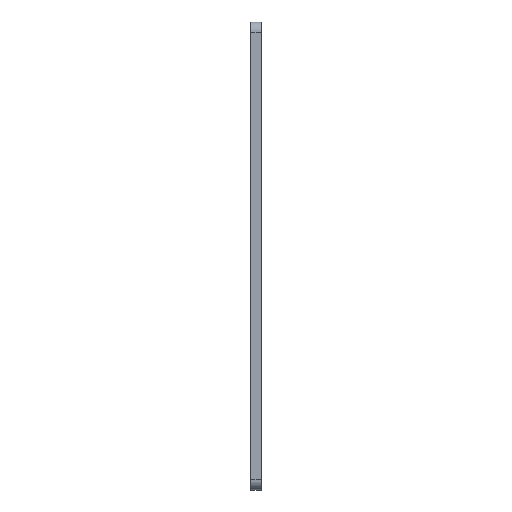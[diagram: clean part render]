
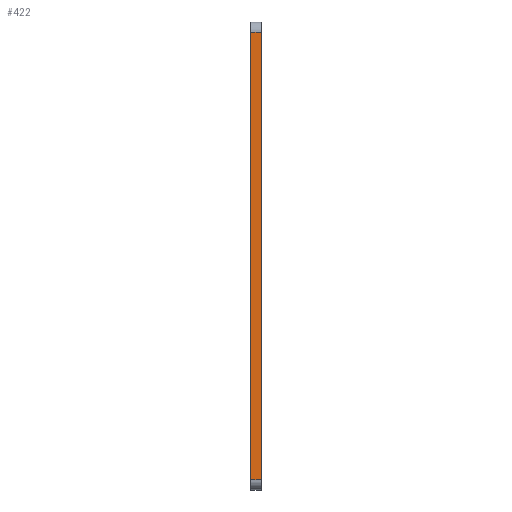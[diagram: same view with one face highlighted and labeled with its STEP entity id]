
A CAD part, left-side view. The second image highlights one B-rep face of the part: STEP entity #422.
In plain terms, the highlighted planar face has unit normal (-1, 0, 0).
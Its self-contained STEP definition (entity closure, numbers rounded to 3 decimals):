
#1 = CARTESIAN_POINT ( 'NONE',  ( -28., 0., 85.5 ) ) ;
#13 = VECTOR ( 'NONE', #370, 1000. ) ;
#38 = CARTESIAN_POINT ( 'NONE',  ( -28., 2.5, -28. ) ) ;
#91 = DIRECTION ( 'NONE',  ( 0., 0., 1. ) ) ;
#99 = VERTEX_POINT ( 'NONE', #1208 ) ;
#117 = LINE ( 'NONE', #1223, #899 ) ;
#136 = DIRECTION ( 'NONE',  ( -1., 0., 0. ) ) ;
#152 = EDGE_CURVE ( 'NONE', #918, #162, #117, .T. ) ;
#162 = VERTEX_POINT ( 'NONE', #1 ) ;
#168 = VECTOR ( 'NONE', #936, 1000. ) ;
#291 = EDGE_LOOP ( 'NONE', ( #1286, #775, #822, #1083 ) ) ;
#316 = VERTEX_POINT ( 'NONE', #1261 ) ;
#370 = DIRECTION ( 'NONE',  ( 0., 0., 1. ) ) ;
#422 = ADVANCED_FACE ( 'NONE', ( #1073 ), #753, .T. ) ;
#588 = AXIS2_PLACEMENT_3D ( 'NONE', #854, #136, #767 ) ;
#590 = LINE ( 'NONE', #812, #1172 ) ;
#603 = CARTESIAN_POINT ( 'NONE',  ( -28., 0., -25.5 ) ) ;
#625 = CARTESIAN_POINT ( 'NONE',  ( -28., 0., -25.5 ) ) ;
#719 = LINE ( 'NONE', #38, #13 ) ;
#740 = EDGE_CURVE ( 'NONE', #99, #316, #719, .T. ) ;
#753 = PLANE ( 'NONE',  #588 ) ;
#767 = DIRECTION ( 'NONE',  ( 0., 0., 1. ) ) ;
#775 = ORIENTED_EDGE ( 'NONE', *, *, #1173, .T. ) ;
#812 = CARTESIAN_POINT ( 'NONE',  ( -28., 0., 85.5 ) ) ;
#822 = ORIENTED_EDGE ( 'NONE', *, *, #740, .F. ) ;
#854 = CARTESIAN_POINT ( 'NONE',  ( -28., 0., -28. ) ) ;
#876 = EDGE_CURVE ( 'NONE', #99, #918, #953, .T. ) ;
#899 = VECTOR ( 'NONE', #91, 1000. ) ;
#918 = VERTEX_POINT ( 'NONE', #625 ) ;
#936 = DIRECTION ( 'NONE',  ( 0., -1., 0. ) ) ;
#953 = LINE ( 'NONE', #603, #168 ) ;
#999 = DIRECTION ( 'NONE',  ( 0., 1., 0. ) ) ;
#1073 = FACE_OUTER_BOUND ( 'NONE', #291, .T. ) ;
#1083 = ORIENTED_EDGE ( 'NONE', *, *, #876, .T. ) ;
#1172 = VECTOR ( 'NONE', #999, 1000. ) ;
#1173 = EDGE_CURVE ( 'NONE', #162, #316, #590, .T. ) ;
#1208 = CARTESIAN_POINT ( 'NONE',  ( -28., 2.5, -25.5 ) ) ;
#1223 = CARTESIAN_POINT ( 'NONE',  ( -28., 0., -28. ) ) ;
#1261 = CARTESIAN_POINT ( 'NONE',  ( -28., 2.5, 85.5 ) ) ;
#1286 = ORIENTED_EDGE ( 'NONE', *, *, #152, .T. ) ;
